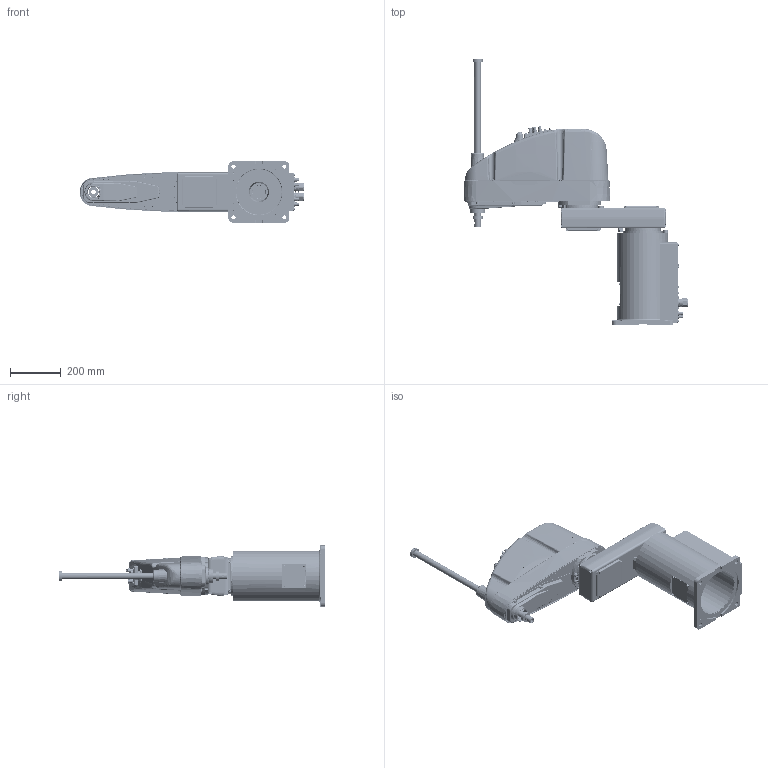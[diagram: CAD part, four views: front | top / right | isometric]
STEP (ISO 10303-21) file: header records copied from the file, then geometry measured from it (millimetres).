
FILE_DESCRIPTION (( 'STEP AP203' ), '1' );
FILE_NAME ('C_G10-654S_ASM.STEP', '2008-12-18T20:51:51', ( 'Adrian' ), ( '' ), 'SwSTEP 2.0', 'SolidWorks 2008', '' );
FILE_SCHEMA (( 'CONFIG_CONTROL_DESIGN' ));
Length unit declared in the file: millimetre
Products named in the file (5): C_G10-654S_ASM; ZL_4; BODY_L; ARM1_L65; BASE1_L
Assembly tree (4 placements, depth 2):
  C_G10-654S_ASM
    ZL_4
    BASE1_L
    BODY_L
    ARM1_L65
Bounding box: 884.34 x 1047.5 x 240 mm (x, y, z)
Volume: 7727247.9 mm3; surface area: 2767948.5 mm2
Topology: 5 solids, 6 shells, 4893 faces, 13039 edges, 8552 vertices
Faces by surface type: plane 2244, cylinder 1601, bspline 522, cone 498, torus 28
Entity records: 230998 total; most frequent: CARTESIAN_POINT 116228, ORIENTED_EDGE 25880, DIRECTION 20161, EDGE_CURVE 12948, VERTEX_POINT 8552, AXIS2_PLACEMENT_3D 6866, VECTOR 6429, LINE 6429
